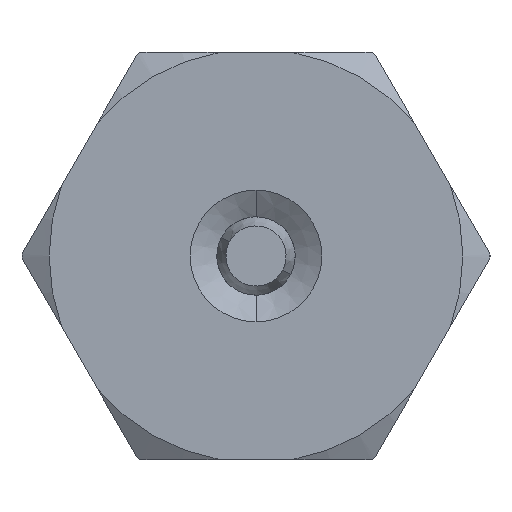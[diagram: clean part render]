
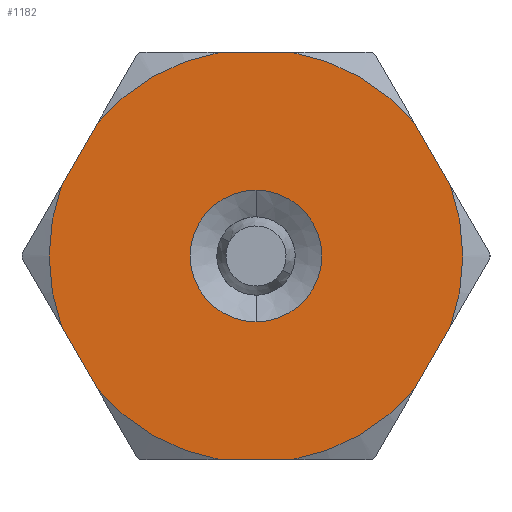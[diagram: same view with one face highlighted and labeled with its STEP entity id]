
A CAD part, left-side view. The second image highlights one B-rep face of the part: STEP entity #1182.
In plain terms, the highlighted planar face has unit normal (-1, 0, 0).
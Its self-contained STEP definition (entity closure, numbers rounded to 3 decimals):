
#231 = EDGE_LOOP ( 'NONE', ( #318, #320 ) ) ;
#232 = EDGE_LOOP ( 'NONE', ( #317, #321, #319, #322, #323, #324, #325, #326, #327, #328, #329, #331 ) ) ;
#317 = ORIENTED_EDGE ( 'NONE', *, *, #1158, .F. ) ;
#318 = ORIENTED_EDGE ( 'NONE', *, *, #1157, .F. ) ;
#319 = ORIENTED_EDGE ( 'NONE', *, *, #1159, .F. ) ;
#320 = ORIENTED_EDGE ( 'NONE', *, *, #896, .F. ) ;
#321 = ORIENTED_EDGE ( 'NONE', *, *, #1141, .T. ) ;
#322 = ORIENTED_EDGE ( 'NONE', *, *, #1154, .T. ) ;
#323 = ORIENTED_EDGE ( 'NONE', *, *, #1160, .F. ) ;
#324 = ORIENTED_EDGE ( 'NONE', *, *, #1151, .T. ) ;
#325 = ORIENTED_EDGE ( 'NONE', *, *, #1161, .F. ) ;
#326 = ORIENTED_EDGE ( 'NONE', *, *, #1148, .T. ) ;
#327 = ORIENTED_EDGE ( 'NONE', *, *, #1162, .F. ) ;
#328 = ORIENTED_EDGE ( 'NONE', *, *, #1145, .T. ) ;
#329 = ORIENTED_EDGE ( 'NONE', *, *, #1163, .F. ) ;
#331 = ORIENTED_EDGE ( 'NONE', *, *, #1142, .T. ) ;
#501 = VERTEX_POINT ( 'NONE', #647 ) ;
#502 = VERTEX_POINT ( 'NONE', #648 ) ;
#575 = VERTEX_POINT ( 'NONE', #721 ) ;
#576 = VERTEX_POINT ( 'NONE', #722 ) ;
#577 = VERTEX_POINT ( 'NONE', #723 ) ;
#578 = VERTEX_POINT ( 'NONE', #724 ) ;
#579 = VERTEX_POINT ( 'NONE', #725 ) ;
#580 = VERTEX_POINT ( 'NONE', #726 ) ;
#581 = VERTEX_POINT ( 'NONE', #727 ) ;
#582 = VERTEX_POINT ( 'NONE', #728 ) ;
#583 = VERTEX_POINT ( 'NONE', #729 ) ;
#584 = VERTEX_POINT ( 'NONE', #730 ) ;
#585 = VERTEX_POINT ( 'NONE', #731 ) ;
#586 = VERTEX_POINT ( 'NONE', #732 ) ;
#647 = CARTESIAN_POINT ( 'NONE',  ( 0., 0., -2.1 ) ) ;
#648 = CARTESIAN_POINT ( 'NONE',  ( 0., 0., 2.1 ) ) ;
#721 = CARTESIAN_POINT ( 'NONE',  ( 0., 6.201, 2.259 ) ) ;
#722 = CARTESIAN_POINT ( 'NONE',  ( 0., 6.201, -2.259 ) ) ;
#723 = CARTESIAN_POINT ( 'NONE',  ( 0., 5.057, 4.241 ) ) ;
#724 = CARTESIAN_POINT ( 'NONE',  ( 0., 1.145, 6.5 ) ) ;
#725 = CARTESIAN_POINT ( 'NONE',  ( 0., -1.145, 6.5 ) ) ;
#726 = CARTESIAN_POINT ( 'NONE',  ( 0., -5.057, 4.241 ) ) ;
#727 = CARTESIAN_POINT ( 'NONE',  ( 0., -6.201, 2.259 ) ) ;
#728 = CARTESIAN_POINT ( 'NONE',  ( 0., -6.201, -2.259 ) ) ;
#729 = CARTESIAN_POINT ( 'NONE',  ( 0., -5.057, -4.241 ) ) ;
#730 = CARTESIAN_POINT ( 'NONE',  ( 0., -1.145, -6.5 ) ) ;
#731 = CARTESIAN_POINT ( 'NONE',  ( 0., 1.145, -6.5 ) ) ;
#732 = CARTESIAN_POINT ( 'NONE',  ( 0., 5.057, -4.241 ) ) ;
#896 = EDGE_CURVE ( 'NONE', #501, #502, #1284, .T. ) ;
#1141 = EDGE_CURVE ( 'NONE', #575, #576, #1340, .T. ) ;
#1142 = EDGE_CURVE ( 'NONE', #578, #577, #1339, .T. ) ;
#1145 = EDGE_CURVE ( 'NONE', #580, #579, #1338, .T. ) ;
#1148 = EDGE_CURVE ( 'NONE', #582, #581, #1337, .T. ) ;
#1151 = EDGE_CURVE ( 'NONE', #584, #583, #1336, .T. ) ;
#1154 = EDGE_CURVE ( 'NONE', #586, #585, #1341, .T. ) ;
#1157 = EDGE_CURVE ( 'NONE', #502, #501, #1342, .T. ) ;
#1158 = EDGE_CURVE ( 'NONE', #575, #577, #2399, .T. ) ;
#1159 = EDGE_CURVE ( 'NONE', #586, #576, #2402, .T. ) ;
#1160 = EDGE_CURVE ( 'NONE', #584, #585, #2405, .T. ) ;
#1161 = EDGE_CURVE ( 'NONE', #582, #583, #2408, .T. ) ;
#1162 = EDGE_CURVE ( 'NONE', #580, #581, #2411, .T. ) ;
#1163 = EDGE_CURVE ( 'NONE', #578, #579, #2414, .T. ) ;
#1182 = ADVANCED_FACE ( 'NONE', ( #2477, #2482 ), #2498, .F. ) ;
#1284 = CIRCLE ( 'NONE', #1838, 2.1 ) ;
#1336 = CIRCLE ( 'NONE', #2294, 6.6 ) ;
#1337 = CIRCLE ( 'NONE', #2293, 6.6 ) ;
#1338 = CIRCLE ( 'NONE', #2292, 6.6 ) ;
#1339 = CIRCLE ( 'NONE', #2291, 6.6 ) ;
#1340 = CIRCLE ( 'NONE', #2287, 6.6 ) ;
#1341 = CIRCLE ( 'NONE', #2295, 6.6 ) ;
#1342 = CIRCLE ( 'NONE', #2296, 2.1 ) ;
#1838 = AXIS2_PLACEMENT_3D ( 'NONE', #1871, #1872, #1873 ) ;
#1871 = CARTESIAN_POINT ( 'NONE',  ( 0., 0., 0. ) ) ;
#1872 = DIRECTION ( 'NONE',  ( -1., 0., 0. ) ) ;
#1873 = DIRECTION ( 'NONE',  ( 0., 0., 1. ) ) ;
#2127 = AXIS2_PLACEMENT_3D ( 'NONE', #2499, #2500, #2501 ) ;
#2287 = AXIS2_PLACEMENT_3D ( 'NONE', #2308, #2309, #2310 ) ;
#2291 = AXIS2_PLACEMENT_3D ( 'NONE', #2311, #2312, #2313 ) ;
#2292 = AXIS2_PLACEMENT_3D ( 'NONE', #2324, #2325, #2326 ) ;
#2293 = AXIS2_PLACEMENT_3D ( 'NONE', #2339, #2340, #2341 ) ;
#2294 = AXIS2_PLACEMENT_3D ( 'NONE', #2354, #2355, #2356 ) ;
#2295 = AXIS2_PLACEMENT_3D ( 'NONE', #2367, #2368, #2369 ) ;
#2296 = AXIS2_PLACEMENT_3D ( 'NONE', #2395, #2396, #2397 ) ;
#2297 = VECTOR ( 'NONE', #2401, 1000. ) ;
#2298 = VECTOR ( 'NONE', #2404, 1000. ) ;
#2308 = CARTESIAN_POINT ( 'NONE',  ( 0., 0., 0. ) ) ;
#2309 = DIRECTION ( 'NONE',  ( -1., 0., 0. ) ) ;
#2310 = DIRECTION ( 'NONE',  ( 0., 0., 1. ) ) ;
#2311 = CARTESIAN_POINT ( 'NONE',  ( 0., 0., 0. ) ) ;
#2312 = DIRECTION ( 'NONE',  ( -1., 0., 0. ) ) ;
#2313 = DIRECTION ( 'NONE',  ( 0., 0., 1. ) ) ;
#2324 = CARTESIAN_POINT ( 'NONE',  ( 0., 0., 0. ) ) ;
#2325 = DIRECTION ( 'NONE',  ( -1., 0., 0. ) ) ;
#2326 = DIRECTION ( 'NONE',  ( 0., 0., 1. ) ) ;
#2339 = CARTESIAN_POINT ( 'NONE',  ( 0., 0., 0. ) ) ;
#2340 = DIRECTION ( 'NONE',  ( -1., 0., 0. ) ) ;
#2341 = DIRECTION ( 'NONE',  ( 0., 0., 1. ) ) ;
#2354 = CARTESIAN_POINT ( 'NONE',  ( 0., 0., 0. ) ) ;
#2355 = DIRECTION ( 'NONE',  ( -1., 0., 0. ) ) ;
#2356 = DIRECTION ( 'NONE',  ( 0., 0., 1. ) ) ;
#2367 = CARTESIAN_POINT ( 'NONE',  ( 0., 0., 0. ) ) ;
#2368 = DIRECTION ( 'NONE',  ( -1., 0., 0. ) ) ;
#2369 = DIRECTION ( 'NONE',  ( 0., 0., 1. ) ) ;
#2395 = CARTESIAN_POINT ( 'NONE',  ( 0., 0., 0. ) ) ;
#2396 = DIRECTION ( 'NONE',  ( -1., 0., 0. ) ) ;
#2397 = DIRECTION ( 'NONE',  ( 0., 0., 1. ) ) ;
#2399 = LINE ( 'NONE', #2400, #2297 ) ;
#2400 = CARTESIAN_POINT ( 'NONE',  ( 0., 5.942, 2.709 ) ) ;
#2401 = DIRECTION ( 'NONE',  ( 0., -0.5, 0.866 ) ) ;
#2402 = LINE ( 'NONE', #2403, #2298 ) ;
#2403 = CARTESIAN_POINT ( 'NONE',  ( 0., 5.942, -2.709 ) ) ;
#2404 = DIRECTION ( 'NONE',  ( 0., 0.5, 0.866 ) ) ;
#2405 = LINE ( 'NONE', #2406, #2456 ) ;
#2406 = CARTESIAN_POINT ( 'NONE',  ( 0., 1.25, -6.5 ) ) ;
#2407 = DIRECTION ( 'NONE',  ( 0., 1., 0. ) ) ;
#2408 = LINE ( 'NONE', #2409, #2457 ) ;
#2409 = CARTESIAN_POINT ( 'NONE',  ( 0., -5.317, -3.791 ) ) ;
#2410 = DIRECTION ( 'NONE',  ( 0., 0.5, -0.866 ) ) ;
#2411 = LINE ( 'NONE', #2412, #2458 ) ;
#2412 = CARTESIAN_POINT ( 'NONE',  ( 0., -5.317, 3.791 ) ) ;
#2413 = DIRECTION ( 'NONE',  ( 0., -0.5, -0.866 ) ) ;
#2414 = LINE ( 'NONE', #2415, #2460 ) ;
#2415 = CARTESIAN_POINT ( 'NONE',  ( 0., 1.25, 6.5 ) ) ;
#2416 = DIRECTION ( 'NONE',  ( 0., -1., 0. ) ) ;
#2456 = VECTOR ( 'NONE', #2407, 1000. ) ;
#2457 = VECTOR ( 'NONE', #2410, 1000. ) ;
#2458 = VECTOR ( 'NONE', #2413, 1000. ) ;
#2460 = VECTOR ( 'NONE', #2416, 1000. ) ;
#2477 = FACE_BOUND ( 'NONE', #231, .T. ) ;
#2482 = FACE_OUTER_BOUND ( 'NONE', #232, .T. ) ;
#2498 = PLANE ( 'NONE',  #2127 ) ;
#2499 = CARTESIAN_POINT ( 'NONE',  ( 0., 1.25, 0. ) ) ;
#2500 = DIRECTION ( 'NONE',  ( 1., 0., 0. ) ) ;
#2501 = DIRECTION ( 'NONE',  ( 0., 0., -1. ) ) ;
